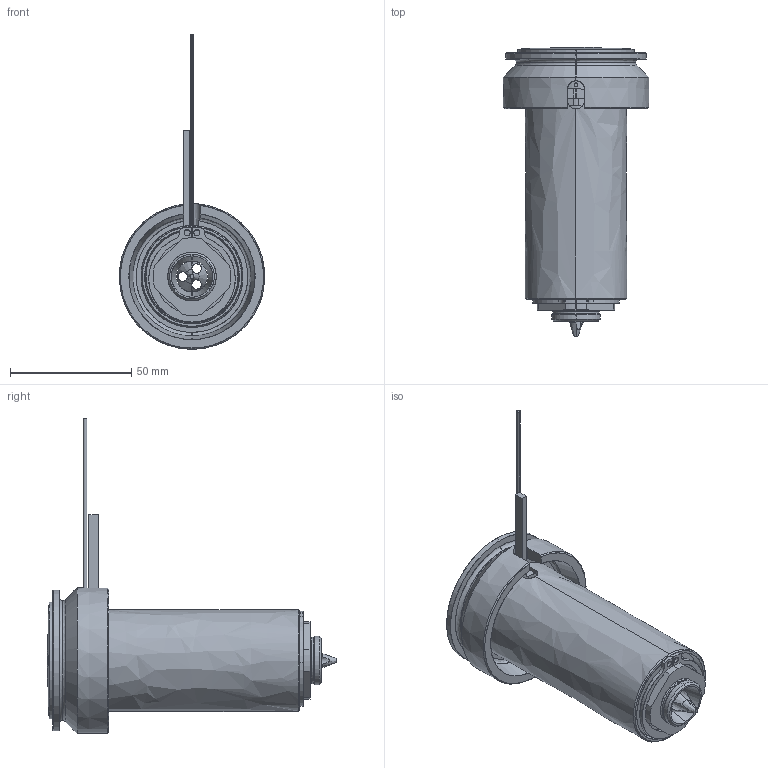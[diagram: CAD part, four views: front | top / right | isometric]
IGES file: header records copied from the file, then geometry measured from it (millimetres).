
Start section: SolidWorks IGES file using analytic representation for surfaces
Global section: file name: C:\Documents and Settings\ws-20\Desktop\TEM\UGEP6004-M-A-1 [Øf-1.6 ØC-17].IGS; native system: SolidWorks 2012; preprocessor: SolidWorks 2012; author: ws-20; date: 120427.094649; units: millimetre
Bounding box: 60 x 119.05 x 129.65 mm (x, y, z)
Surface area: 59139.3 mm2 (no closed solid volume)
Topology: 0 solids, 0 shells, 132 faces, 2314 edges, 2314 vertices
Faces by surface type: revolution 83, bspline 49
